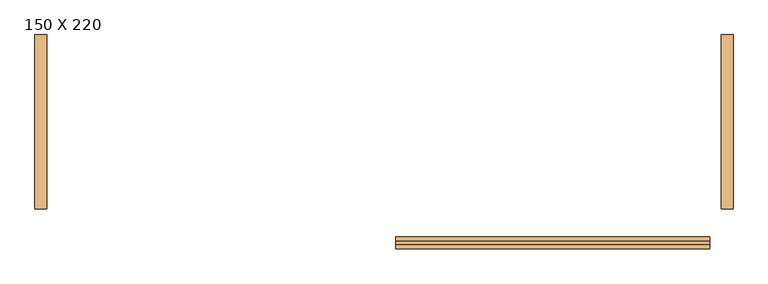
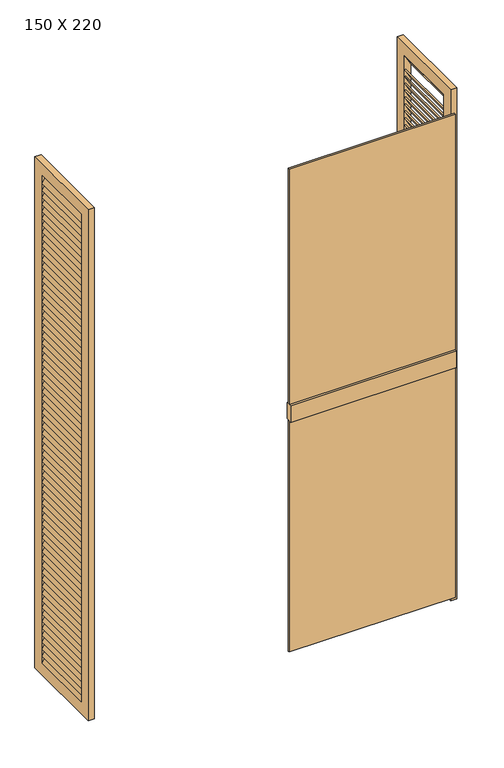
"""IFC4 building model written with IfcOpenShell, lengths in millimetres: door geometry, PORTA DE VIDRO COM ESQUADRIA DE CORRER - 2 FOLHAS + VENEZIANA SANFONADA - 4 FOLHAS : 150 X 220."""

from ifc_helpers import new_model, si_unit, frame, origin, place, context, project, spatial, polyline, outline, extrude, source, transform, mapped, element, save


def door_150_x_220_6492d4d8(model_context):
    return source(origin(), model_context, "Body", "SweptSolid", [
        extrude(outline(polyline([(2055.1449275, 757.1837644), (2055.1449275, 762.1837644), (2090.1449275, 742.1837644), (2090.1449275, 737.1837644), (2055.1449275, 757.1837644)])), frame((0.0, 60.1578647, 0.0), z_axis=(0.0, 1.0, 0.0), x_axis=(0.0, 0.0, 1.0)), (0.0, 0.0, 1.0), 275.0),
        extrude(outline(polyline([(2025.2173913, 757.1837644), (2025.2173913, 762.1837644), (2060.2173913, 742.1837644), (2060.2173913, 737.1837644), (2025.2173913, 757.1837644)])), frame((0.0, 60.1578647, 0.0), z_axis=(0.0, 1.0, 0.0), x_axis=(0.0, 0.0, 1.0)), (0.0, 0.0, 1.0), 275.0),
        extrude(outline(polyline([(1995.2898551, 757.1837644), (1995.2898551, 762.1837644), (2030.2898551, 742.1837644), (2030.2898551, 737.1837644), (1995.2898551, 757.1837644)])), frame((0.0, 60.1578647, 0.0), z_axis=(0.0, 1.0, 0.0), x_axis=(0.0, 0.0, 1.0)), (0.0, 0.0, 1.0), 275.0),
        extrude(outline(polyline([(1965.3623188, 757.1837644), (1965.3623188, 762.1837644), (2000.3623188, 742.1837644), (2000.3623188, 737.1837644), (1965.3623188, 757.1837644)])), frame((0.0, 60.1578647, 0.0), z_axis=(0.0, 1.0, 0.0), x_axis=(0.0, 0.0, 1.0)), (0.0, 0.0, 1.0), 275.0),
        extrude(outline(polyline([(1935.4347826, 757.1837644), (1935.4347826, 762.1837644), (1970.4347826, 742.1837644), (1970.4347826, 737.1837644), (1935.4347826, 757.1837644)])), frame((0.0, 60.1578647, 0.0), z_axis=(0.0, 1.0, 0.0), x_axis=(0.0, 0.0, 1.0)), (0.0, 0.0, 1.0), 275.0),
        extrude(outline(polyline([(1905.5072464, 757.1837644), (1905.5072464, 762.1837644), (1940.5072464, 742.1837644), (1940.5072464, 737.1837644), (1905.5072464, 757.1837644)])), frame((0.0, 60.1578647, 0.0), z_axis=(0.0, 1.0, 0.0), x_axis=(0.0, 0.0, 1.0)), (0.0, 0.0, 1.0), 275.0),
        extrude(outline(polyline([(1875.5797101, 757.1837644), (1875.5797101, 762.1837644), (1910.5797101, 742.1837644), (1910.5797101, 737.1837644), (1875.5797101, 757.1837644)])), frame((0.0, 60.1578647, 0.0), z_axis=(0.0, 1.0, 0.0), x_axis=(0.0, 0.0, 1.0)), (0.0, 0.0, 1.0), 275.0),
        extrude(outline(polyline([(1845.6521739, 757.1837644), (1845.6521739, 762.1837644), (1880.6521739, 742.1837644), (1880.6521739, 737.1837644), (1845.6521739, 757.1837644)])), frame((0.0, 60.1578647, 0.0), z_axis=(0.0, 1.0, 0.0), x_axis=(0.0, 0.0, 1.0)), (0.0, 0.0, 1.0), 275.0),
        extrude(outline(polyline([(1815.7246377, 757.1837644), (1815.7246377, 762.1837644), (1850.7246377, 742.1837644), (1850.7246377, 737.1837644), (1815.7246377, 757.1837644)])), frame((0.0, 60.1578647, 0.0), z_axis=(0.0, 1.0, 0.0), x_axis=(0.0, 0.0, 1.0)), (0.0, 0.0, 1.0), 275.0),
        extrude(outline(polyline([(1785.7971014, 757.1837644), (1785.7971014, 762.1837644), (1820.7971014, 742.1837644), (1820.7971014, 737.1837644), (1785.7971014, 757.1837644)])), frame((0.0, 60.1578647, 0.0), z_axis=(0.0, 1.0, 0.0), x_axis=(0.0, 0.0, 1.0)), (0.0, 0.0, 1.0), 275.0),
        extrude(outline(polyline([(1755.8695652, 757.1837644), (1755.8695652, 762.1837644), (1790.8695652, 742.1837644), (1790.8695652, 737.1837644), (1755.8695652, 757.1837644)])), frame((0.0, 60.1578647, 0.0), z_axis=(0.0, 1.0, 0.0), x_axis=(0.0, 0.0, 1.0)), (0.0, 0.0, 1.0), 275.0),
        extrude(outline(polyline([(1725.942029, 757.1837644), (1725.942029, 762.1837644), (1760.942029, 742.1837644), (1760.942029, 737.1837644), (1725.942029, 757.1837644)])), frame((0.0, 60.1578647, 0.0), z_axis=(0.0, 1.0, 0.0), x_axis=(0.0, 0.0, 1.0)), (0.0, 0.0, 1.0), 275.0),
        extrude(outline(polyline([(1696.0144928, 757.1837644), (1696.0144928, 762.1837644), (1731.0144928, 742.1837644), (1731.0144928, 737.1837644), (1696.0144928, 757.1837644)])), frame((0.0, 60.1578647, 0.0), z_axis=(0.0, 1.0, 0.0), x_axis=(0.0, 0.0, 1.0)), (0.0, 0.0, 1.0), 275.0),
        extrude(outline(polyline([(1666.0869565, 757.1837644), (1666.0869565, 762.1837644), (1701.0869565, 742.1837644), (1701.0869565, 737.1837644), (1666.0869565, 757.1837644)])), frame((0.0, 60.1578647, 0.0), z_axis=(0.0, 1.0, 0.0), x_axis=(0.0, 0.0, 1.0)), (0.0, 0.0, 1.0), 275.0),
        extrude(outline(polyline([(1636.1594203, 757.1837644), (1636.1594203, 762.1837644), (1671.1594203, 742.1837644), (1671.1594203, 737.1837644), (1636.1594203, 757.1837644)])), frame((0.0, 60.1578647, 0.0), z_axis=(0.0, 1.0, 0.0), x_axis=(0.0, 0.0, 1.0)), (0.0, 0.0, 1.0), 275.0),
        extrude(outline(polyline([(1606.2318841, 757.1837644), (1606.2318841, 762.1837644), (1641.2318841, 742.1837644), (1641.2318841, 737.1837644), (1606.2318841, 757.1837644)])), frame((0.0, 60.1578647, 0.0), z_axis=(0.0, 1.0, 0.0), x_axis=(0.0, 0.0, 1.0)), (0.0, 0.0, 1.0), 275.0),
        extrude(outline(polyline([(1576.3043478, 757.1837644), (1576.3043478, 762.1837644), (1611.3043478, 742.1837644), (1611.3043478, 737.1837644), (1576.3043478, 757.1837644)])), frame((0.0, 60.1578647, 0.0), z_axis=(0.0, 1.0, 0.0), x_axis=(0.0, 0.0, 1.0)), (0.0, 0.0, 1.0), 275.0),
        extrude(outline(polyline([(1546.3768116, 757.1837644), (1546.3768116, 762.1837644), (1581.3768116, 742.1837644), (1581.3768116, 737.1837644), (1546.3768116, 757.1837644)])), frame((0.0, 60.1578647, 0.0), z_axis=(0.0, 1.0, 0.0), x_axis=(0.0, 0.0, 1.0)), (0.0, 0.0, 1.0), 275.0),
        extrude(outline(polyline([(1516.4492754, 757.1837644), (1516.4492754, 762.1837644), (1551.4492754, 742.1837644), (1551.4492754, 737.1837644), (1516.4492754, 757.1837644)])), frame((0.0, 60.1578647, 0.0), z_axis=(0.0, 1.0, 0.0), x_axis=(0.0, 0.0, 1.0)), (0.0, 0.0, 1.0), 275.0),
        extrude(outline(polyline([(1486.5217391, 757.1837644), (1486.5217391, 762.1837644), (1521.5217391, 742.1837644), (1521.5217391, 737.1837644), (1486.5217391, 757.1837644)])), frame((0.0, 60.1578647, 0.0), z_axis=(0.0, 1.0, 0.0), x_axis=(0.0, 0.0, 1.0)), (0.0, 0.0, 1.0), 275.0),
        extrude(outline(polyline([(1456.5942029, 757.1837644), (1456.5942029, 762.1837644), (1491.5942029, 742.1837644), (1491.5942029, 737.1837644), (1456.5942029, 757.1837644)])), frame((0.0, 60.1578647, 0.0), z_axis=(0.0, 1.0, 0.0), x_axis=(0.0, 0.0, 1.0)), (0.0, 0.0, 1.0), 275.0),
        extrude(outline(polyline([(1426.6666667, 757.1837644), (1426.6666667, 762.1837644), (1461.6666667, 742.1837644), (1461.6666667, 737.1837644), (1426.6666667, 757.1837644)])), frame((0.0, 60.1578647, 0.0), z_axis=(0.0, 1.0, 0.0), x_axis=(0.0, 0.0, 1.0)), (0.0, 0.0, 1.0), 275.0),
        extrude(outline(polyline([(1396.7391304, 757.1837644), (1396.7391304, 762.1837644), (1431.7391304, 742.1837644), (1431.7391304, 737.1837644), (1396.7391304, 757.1837644)])), frame((0.0, 60.1578647, 0.0), z_axis=(0.0, 1.0, 0.0), x_axis=(0.0, 0.0, 1.0)), (0.0, 0.0, 1.0), 275.0),
        extrude(outline(polyline([(1366.8115942, 757.1837644), (1366.8115942, 762.1837644), (1401.8115942, 742.1837644), (1401.8115942, 737.1837644), (1366.8115942, 757.1837644)])), frame((0.0, 60.1578647, 0.0), z_axis=(0.0, 1.0, 0.0), x_axis=(0.0, 0.0, 1.0)), (0.0, 0.0, 1.0), 275.0),
        extrude(outline(polyline([(1336.884058, 757.1837644), (1336.884058, 762.1837644), (1371.884058, 742.1837644), (1371.884058, 737.1837644), (1336.884058, 757.1837644)])), frame((0.0, 60.1578647, 0.0), z_axis=(0.0, 1.0, 0.0), x_axis=(0.0, 0.0, 1.0)), (0.0, 0.0, 1.0), 275.0),
        extrude(outline(polyline([(1306.9565217, 757.1837644), (1306.9565217, 762.1837644), (1341.9565217, 742.1837644), (1341.9565217, 737.1837644), (1306.9565217, 757.1837644)])), frame((0.0, 60.1578647, 0.0), z_axis=(0.0, 1.0, 0.0), x_axis=(0.0, 0.0, 1.0)), (0.0, 0.0, 1.0), 275.0),
        extrude(outline(polyline([(1277.0289855, 757.1837644), (1277.0289855, 762.1837644), (1312.0289855, 742.1837644), (1312.0289855, 737.1837644), (1277.0289855, 757.1837644)])), frame((0.0, 60.1578647, 0.0), z_axis=(0.0, 1.0, 0.0), x_axis=(0.0, 0.0, 1.0)), (0.0, 0.0, 1.0), 275.0),
        extrude(outline(polyline([(1247.1014493, 757.1837644), (1247.1014493, 762.1837644), (1282.1014493, 742.1837644), (1282.1014493, 737.1837644), (1247.1014493, 757.1837644)])), frame((0.0, 60.1578647, 0.0), z_axis=(0.0, 1.0, 0.0), x_axis=(0.0, 0.0, 1.0)), (0.0, 0.0, 1.0), 275.0),
        extrude(outline(polyline([(1217.173913, 757.1837644), (1217.173913, 762.1837644), (1252.173913, 742.1837644), (1252.173913, 737.1837644), (1217.173913, 757.1837644)])), frame((0.0, 60.1578647, 0.0), z_axis=(0.0, 1.0, 0.0), x_axis=(0.0, 0.0, 1.0)), (0.0, 0.0, 1.0), 275.0),
        extrude(outline(polyline([(1187.2463768, 757.1837644), (1187.2463768, 762.1837644), (1222.2463768, 742.1837644), (1222.2463768, 737.1837644), (1187.2463768, 757.1837644)])), frame((0.0, 60.1578647, 0.0), z_axis=(0.0, 1.0, 0.0), x_axis=(0.0, 0.0, 1.0)), (0.0, 0.0, 1.0), 275.0),
        extrude(outline(polyline([(1157.3188406, 757.1837644), (1157.3188406, 762.1837644), (1192.3188406, 742.1837644), (1192.3188406, 737.1837644), (1157.3188406, 757.1837644)])), frame((0.0, 60.1578647, 0.0), z_axis=(0.0, 1.0, 0.0), x_axis=(0.0, 0.0, 1.0)), (0.0, 0.0, 1.0), 275.0),
        extrude(outline(polyline([(1127.3913043, 757.1837644), (1127.3913043, 762.1837644), (1162.3913043, 742.1837644), (1162.3913043, 737.1837644), (1127.3913043, 757.1837644)])), frame((0.0, 60.1578647, 0.0), z_axis=(0.0, 1.0, 0.0), x_axis=(0.0, 0.0, 1.0)), (0.0, 0.0, 1.0), 275.0),
        extrude(outline(polyline([(1097.4637681, 757.1837644), (1097.4637681, 762.1837644), (1132.4637681, 742.1837644), (1132.4637681, 737.1837644), (1097.4637681, 757.1837644)])), frame((0.0, 60.1578647, 0.0), z_axis=(0.0, 1.0, 0.0), x_axis=(0.0, 0.0, 1.0)), (0.0, 0.0, 1.0), 275.0),
        extrude(outline(polyline([(1067.5362319, 757.1837644), (1067.5362319, 762.1837644), (1102.5362319, 742.1837644), (1102.5362319, 737.1837644), (1067.5362319, 757.1837644)])), frame((0.0, 60.1578647, 0.0), z_axis=(0.0, 1.0, 0.0), x_axis=(0.0, 0.0, 1.0)), (0.0, 0.0, 1.0), 275.0),
        extrude(outline(polyline([(1037.6086957, 757.1837644), (1037.6086957, 762.1837644), (1072.6086957, 742.1837644), (1072.6086957, 737.1837644), (1037.6086957, 757.1837644)])), frame((0.0, 60.1578647, 0.0), z_axis=(0.0, 1.0, 0.0), x_axis=(0.0, 0.0, 1.0)), (0.0, 0.0, 1.0), 275.0),
        extrude(outline(polyline([(1007.6811594, 757.1837644), (1007.6811594, 762.1837644), (1042.6811594, 742.1837644), (1042.6811594, 737.1837644), (1007.6811594, 757.1837644)])), frame((0.0, 60.1578647, 0.0), z_axis=(0.0, 1.0, 0.0), x_axis=(0.0, 0.0, 1.0)), (0.0, 0.0, 1.0), 275.0),
        extrude(outline(polyline([(977.7536232, 757.1837644), (977.7536232, 762.1837644), (1012.7536232, 742.1837644), (1012.7536232, 737.1837644), (977.7536232, 757.1837644)])), frame((0.0, 60.1578647, 0.0), z_axis=(0.0, 1.0, 0.0), x_axis=(0.0, 0.0, 1.0)), (0.0, 0.0, 1.0), 275.0),
        extrude(outline(polyline([(947.826087, 757.1837644), (947.826087, 762.1837644), (982.826087, 742.1837644), (982.826087, 737.1837644), (947.826087, 757.1837644)])), frame((0.0, 60.1578647, 0.0), z_axis=(0.0, 1.0, 0.0), x_axis=(0.0, 0.0, 1.0)), (0.0, 0.0, 1.0), 275.0),
        extrude(outline(polyline([(917.8985507, 757.1837644), (917.8985507, 762.1837644), (952.8985507, 742.1837644), (952.8985507, 737.1837644), (917.8985507, 757.1837644)])), frame((0.0, 60.1578647, 0.0), z_axis=(0.0, 1.0, 0.0), x_axis=(0.0, 0.0, 1.0)), (0.0, 0.0, 1.0), 275.0),
        extrude(outline(polyline([(887.9710145, 757.1837644), (887.9710145, 762.1837644), (922.9710145, 742.1837644), (922.9710145, 737.1837644), (887.9710145, 757.1837644)])), frame((0.0, 60.1578647, 0.0), z_axis=(0.0, 1.0, 0.0), x_axis=(0.0, 0.0, 1.0)), (0.0, 0.0, 1.0), 275.0),
        extrude(outline(polyline([(858.0434783, 757.1837644), (858.0434783, 762.1837644), (893.0434783, 742.1837644), (893.0434783, 737.1837644), (858.0434783, 757.1837644)])), frame((0.0, 60.1578647, 0.0), z_axis=(0.0, 1.0, 0.0), x_axis=(0.0, 0.0, 1.0)), (0.0, 0.0, 1.0), 275.0),
        extrude(outline(polyline([(828.115942, 757.1837644), (828.115942, 762.1837644), (863.115942, 742.1837644), (863.115942, 737.1837644), (828.115942, 757.1837644)])), frame((0.0, 60.1578647, 0.0), z_axis=(0.0, 1.0, 0.0), x_axis=(0.0, 0.0, 1.0)), (0.0, 0.0, 1.0), 275.0),
        extrude(outline(polyline([(798.1884058, 757.1837644), (798.1884058, 762.1837644), (833.1884058, 742.1837644), (833.1884058, 737.1837644), (798.1884058, 757.1837644)])), frame((0.0, 60.1578647, 0.0), z_axis=(0.0, 1.0, 0.0), x_axis=(0.0, 0.0, 1.0)), (0.0, 0.0, 1.0), 275.0),
        extrude(outline(polyline([(768.2608696, 757.1837644), (768.2608696, 762.1837644), (803.2608696, 742.1837644), (803.2608696, 737.1837644), (768.2608696, 757.1837644)])), frame((0.0, 60.1578647, 0.0), z_axis=(0.0, 1.0, 0.0), x_axis=(0.0, 0.0, 1.0)), (0.0, 0.0, 1.0), 275.0),
        extrude(outline(polyline([(738.3333333, 757.1837644), (738.3333333, 762.1837644), (773.3333333, 742.1837644), (773.3333333, 737.1837644), (738.3333333, 757.1837644)])), frame((0.0, 60.1578647, 0.0), z_axis=(0.0, 1.0, 0.0), x_axis=(0.0, 0.0, 1.0)), (0.0, 0.0, 1.0), 275.0),
        extrude(outline(polyline([(708.4057971, 757.1837644), (708.4057971, 762.1837644), (743.4057971, 742.1837644), (743.4057971, 737.1837644), (708.4057971, 757.1837644)])), frame((0.0, 60.1578647, 0.0), z_axis=(0.0, 1.0, 0.0), x_axis=(0.0, 0.0, 1.0)), (0.0, 0.0, 1.0), 275.0),
        extrude(outline(polyline([(678.4782609, 757.1837644), (678.4782609, 762.1837644), (713.4782609, 742.1837644), (713.4782609, 737.1837644), (678.4782609, 757.1837644)])), frame((0.0, 60.1578647, 0.0), z_axis=(0.0, 1.0, 0.0), x_axis=(0.0, 0.0, 1.0)), (0.0, 0.0, 1.0), 275.0),
        extrude(outline(polyline([(648.5507246, 757.1837644), (648.5507246, 762.1837644), (683.5507246, 742.1837644), (683.5507246, 737.1837644), (648.5507246, 757.1837644)])), frame((0.0, 60.1578647, 0.0), z_axis=(0.0, 1.0, 0.0), x_axis=(0.0, 0.0, 1.0)), (0.0, 0.0, 1.0), 275.0),
        extrude(outline(polyline([(618.6231884, 757.1837644), (618.6231884, 762.1837644), (653.6231884, 742.1837644), (653.6231884, 737.1837644), (618.6231884, 757.1837644)])), frame((0.0, 60.1578647, 0.0), z_axis=(0.0, 1.0, 0.0), x_axis=(0.0, 0.0, 1.0)), (0.0, 0.0, 1.0), 275.0),
        extrude(outline(polyline([(588.6956522, 757.1837644), (588.6956522, 762.1837644), (623.6956522, 742.1837644), (623.6956522, 737.1837644), (588.6956522, 757.1837644)])), frame((0.0, 60.1578647, 0.0), z_axis=(0.0, 1.0, 0.0), x_axis=(0.0, 0.0, 1.0)), (0.0, 0.0, 1.0), 275.0),
        extrude(outline(polyline([(558.7681159, 757.1837644), (558.7681159, 762.1837644), (593.7681159, 742.1837644), (593.7681159, 737.1837644), (558.7681159, 757.1837644)])), frame((0.0, 60.1578647, 0.0), z_axis=(0.0, 1.0, 0.0), x_axis=(0.0, 0.0, 1.0)), (0.0, 0.0, 1.0), 275.0),
        extrude(outline(polyline([(528.8405797, 757.1837644), (528.8405797, 762.1837644), (563.8405797, 742.1837644), (563.8405797, 737.1837644), (528.8405797, 757.1837644)])), frame((0.0, 60.1578647, 0.0), z_axis=(0.0, 1.0, 0.0), x_axis=(0.0, 0.0, 1.0)), (0.0, 0.0, 1.0), 275.0),
        extrude(outline(polyline([(498.9130435, 757.1837644), (498.9130435, 762.1837644), (533.9130435, 742.1837644), (533.9130435, 737.1837644), (498.9130435, 757.1837644)])), frame((0.0, 60.1578647, 0.0), z_axis=(0.0, 1.0, 0.0), x_axis=(0.0, 0.0, 1.0)), (0.0, 0.0, 1.0), 275.0),
        extrude(outline(polyline([(468.9855072, 757.1837644), (468.9855072, 762.1837644), (503.9855072, 742.1837644), (503.9855072, 737.1837644), (468.9855072, 757.1837644)])), frame((0.0, 60.1578647, 0.0), z_axis=(0.0, 1.0, 0.0), x_axis=(0.0, 0.0, 1.0)), (0.0, 0.0, 1.0), 275.0),
        extrude(outline(polyline([(439.057971, 757.1837644), (439.057971, 762.1837644), (474.057971, 742.1837644), (474.057971, 737.1837644), (439.057971, 757.1837644)])), frame((0.0, 60.1578647, 0.0), z_axis=(0.0, 1.0, 0.0), x_axis=(0.0, 0.0, 1.0)), (0.0, 0.0, 1.0), 275.0),
        extrude(outline(polyline([(409.1304348, 757.1837644), (409.1304348, 762.1837644), (444.1304348, 742.1837644), (444.1304348, 737.1837644), (409.1304348, 757.1837644)])), frame((0.0, 60.1578647, 0.0), z_axis=(0.0, 1.0, 0.0), x_axis=(0.0, 0.0, 1.0)), (0.0, 0.0, 1.0), 275.0),
        extrude(outline(polyline([(379.2028986, 757.1837644), (379.2028986, 762.1837644), (414.2028986, 742.1837644), (414.2028986, 737.1837644), (379.2028986, 757.1837644)])), frame((0.0, 60.1578647, 0.0), z_axis=(0.0, 1.0, 0.0), x_axis=(0.0, 0.0, 1.0)), (0.0, 0.0, 1.0), 275.0),
        extrude(outline(polyline([(349.2753623, 757.1837644), (349.2753623, 762.1837644), (384.2753623, 742.1837644), (384.2753623, 737.1837644), (349.2753623, 757.1837644)])), frame((0.0, 60.1578647, 0.0), z_axis=(0.0, 1.0, 0.0), x_axis=(0.0, 0.0, 1.0)), (0.0, 0.0, 1.0), 275.0),
        extrude(outline(polyline([(319.3478261, 757.1837644), (319.3478261, 762.1837644), (354.3478261, 742.1837644), (354.3478261, 737.1837644), (319.3478261, 757.1837644)])), frame((0.0, 60.1578647, 0.0), z_axis=(0.0, 1.0, 0.0), x_axis=(0.0, 0.0, 1.0)), (0.0, 0.0, 1.0), 275.0),
        extrude(outline(polyline([(289.4202899, 757.1837644), (289.4202899, 762.1837644), (324.4202899, 742.1837644), (324.4202899, 737.1837644), (289.4202899, 757.1837644)])), frame((0.0, 60.1578647, 0.0), z_axis=(0.0, 1.0, 0.0), x_axis=(0.0, 0.0, 1.0)), (0.0, 0.0, 1.0), 275.0),
        extrude(outline(polyline([(259.4927536, 757.1837644), (259.4927536, 762.1837644), (294.4927536, 742.1837644), (294.4927536, 737.1837644), (259.4927536, 757.1837644)])), frame((0.0, 60.1578647, 0.0), z_axis=(0.0, 1.0, 0.0), x_axis=(0.0, 0.0, 1.0)), (0.0, 0.0, 1.0), 275.0),
        extrude(outline(polyline([(229.5652174, 757.1837644), (229.5652174, 762.1837644), (264.5652174, 742.1837644), (264.5652174, 737.1837644), (229.5652174, 757.1837644)])), frame((0.0, 60.1578647, 0.0), z_axis=(0.0, 1.0, 0.0), x_axis=(0.0, 0.0, 1.0)), (0.0, 0.0, 1.0), 275.0),
        extrude(outline(polyline([(199.6376812, 757.1837644), (199.6376812, 762.1837644), (234.6376812, 742.1837644), (234.6376812, 737.1837644), (199.6376812, 757.1837644)])), frame((0.0, 60.1578647, 0.0), z_axis=(0.0, 1.0, 0.0), x_axis=(0.0, 0.0, 1.0)), (0.0, 0.0, 1.0), 275.0),
        extrude(outline(polyline([(169.7101449, 757.1837644), (169.7101449, 762.1837644), (204.7101449, 742.1837644), (204.7101449, 737.1837644), (169.7101449, 757.1837644)])), frame((0.0, 60.1578647, 0.0), z_axis=(0.0, 1.0, 0.0), x_axis=(0.0, 0.0, 1.0)), (0.0, 0.0, 1.0), 275.0),
        extrude(outline(polyline([(139.7826087, 757.1837644), (139.7826087, 762.1837644), (174.7826087, 742.1837644), (174.7826087, 737.1837644), (139.7826087, 757.1837644)])), frame((0.0, 60.1578647, 0.0), z_axis=(0.0, 1.0, 0.0), x_axis=(0.0, 0.0, 1.0)), (0.0, 0.0, 1.0), 275.0),
        extrude(outline(polyline([(109.8550725, 757.1837644), (109.8550725, 762.1837644), (144.8550725, 742.1837644), (144.8550725, 737.1837644), (109.8550725, 757.1837644)])), frame((0.0, 60.1578647, 0.0), z_axis=(0.0, 1.0, 0.0), x_axis=(0.0, 0.0, 1.0)), (0.0, 0.0, 1.0), 275.0),
        extrude(outline(polyline([(79.9275362, 757.1837644), (79.9275362, 762.1837644), (114.9275362, 742.1837644), (114.9275362, 737.1837644), (79.9275362, 757.1837644)])), frame((0.0, 60.1578647, 0.0), z_axis=(0.0, 1.0, 0.0), x_axis=(0.0, 0.0, 1.0)), (0.0, 0.0, 1.0), 275.0),
        extrude(outline(polyline([(2115.0, 757.1837644), (2115.0, 762.1837644), (2150.0, 742.1837644), (2150.0, 737.1837644), (2115.0, 757.1837644)])), frame((0.0, 60.1578647, 0.0), z_axis=(0.0, 1.0, 0.0), x_axis=(0.0, 0.0, 1.0)), (0.0, 0.0, 1.0), 275.0),
        extrude(outline(polyline([(50.0, 757.1837644), (50.0, 762.1837644), (85.0, 742.1837644), (85.0, 737.1837644), (50.0, 757.1837644)])), frame((0.0, 60.1578647, 0.0), z_axis=(0.0, 1.0, 0.0), x_axis=(0.0, 0.0, 1.0)), (0.0, 0.0, 1.0), 275.0),
        extrude(outline(polyline([(385.1578647, 2200.0), (385.1578647, 0.0), (10.1578647, 0.0), (10.1578647, 2200.0), (385.1578647, 2200.0)]), holes=[polyline([(335.1578647, 2150.0), (60.1578647, 2150.0), (60.1578647, 50.0), (335.1578647, 50.0), (335.1578647, 2150.0)])]), frame((737.1837644, 0.0, 0.0), z_axis=(1.0, 0.0, 0.0), x_axis=(0.0, 1.0, 0.0)), (0.0, 0.0, 1.0), 25.0),
        extrude(outline(polyline([(2085.0724638, -732.8162356), (2120.0724638, -712.8162356), (2120.0724638, -717.8162356), (2085.0724638, -737.8162356), (2085.0724638, -732.8162356)])), frame((0.0, 60.1578647, 0.0), z_axis=(0.0, 1.0, 0.0), x_axis=(0.0, 0.0, 1.0)), (0.0, 0.0, 1.0), 275.0),
        extrude(outline(polyline([(2055.1449275, -732.8162356), (2090.1449275, -712.8162356), (2090.1449275, -717.8162356), (2055.1449275, -737.8162356), (2055.1449275, -732.8162356)])), frame((0.0, 60.1578647, 0.0), z_axis=(0.0, 1.0, 0.0), x_axis=(0.0, 0.0, 1.0)), (0.0, 0.0, 1.0), 275.0),
        extrude(outline(polyline([(2025.2173913, -732.8162356), (2060.2173913, -712.8162356), (2060.2173913, -717.8162356), (2025.2173913, -737.8162356), (2025.2173913, -732.8162356)])), frame((0.0, 60.1578647, 0.0), z_axis=(0.0, 1.0, 0.0), x_axis=(0.0, 0.0, 1.0)), (0.0, 0.0, 1.0), 275.0),
        extrude(outline(polyline([(1995.2898551, -732.8162356), (2030.2898551, -712.8162356), (2030.2898551, -717.8162356), (1995.2898551, -737.8162356), (1995.2898551, -732.8162356)])), frame((0.0, 60.1578647, 0.0), z_axis=(0.0, 1.0, 0.0), x_axis=(0.0, 0.0, 1.0)), (0.0, 0.0, 1.0), 275.0),
        extrude(outline(polyline([(1965.3623188, -732.8162356), (2000.3623188, -712.8162356), (2000.3623188, -717.8162356), (1965.3623188, -737.8162356), (1965.3623188, -732.8162356)])), frame((0.0, 60.1578647, 0.0), z_axis=(0.0, 1.0, 0.0), x_axis=(0.0, 0.0, 1.0)), (0.0, 0.0, 1.0), 275.0),
        extrude(outline(polyline([(1935.4347826, -732.8162356), (1970.4347826, -712.8162356), (1970.4347826, -717.8162356), (1935.4347826, -737.8162356), (1935.4347826, -732.8162356)])), frame((0.0, 60.1578647, 0.0), z_axis=(0.0, 1.0, 0.0), x_axis=(0.0, 0.0, 1.0)), (0.0, 0.0, 1.0), 275.0),
        extrude(outline(polyline([(1905.5072464, -732.8162356), (1940.5072464, -712.8162356), (1940.5072464, -717.8162356), (1905.5072464, -737.8162356), (1905.5072464, -732.8162356)])), frame((0.0, 60.1578647, 0.0), z_axis=(0.0, 1.0, 0.0), x_axis=(0.0, 0.0, 1.0)), (0.0, 0.0, 1.0), 275.0),
        extrude(outline(polyline([(1875.5797101, -732.8162356), (1910.5797101, -712.8162356), (1910.5797101, -717.8162356), (1875.5797101, -737.8162356), (1875.5797101, -732.8162356)])), frame((0.0, 60.1578647, 0.0), z_axis=(0.0, 1.0, 0.0), x_axis=(0.0, 0.0, 1.0)), (0.0, 0.0, 1.0), 275.0),
        extrude(outline(polyline([(1845.6521739, -732.8162356), (1880.6521739, -712.8162356), (1880.6521739, -717.8162356), (1845.6521739, -737.8162356), (1845.6521739, -732.8162356)])), frame((0.0, 60.1578647, 0.0), z_axis=(0.0, 1.0, 0.0), x_axis=(0.0, 0.0, 1.0)), (0.0, 0.0, 1.0), 275.0),
        extrude(outline(polyline([(1815.7246377, -732.8162356), (1850.7246377, -712.8162356), (1850.7246377, -717.8162356), (1815.7246377, -737.8162356), (1815.7246377, -732.8162356)])), frame((0.0, 60.1578647, 0.0), z_axis=(0.0, 1.0, 0.0), x_axis=(0.0, 0.0, 1.0)), (0.0, 0.0, 1.0), 275.0),
        extrude(outline(polyline([(1785.7971014, -732.8162356), (1820.7971014, -712.8162356), (1820.7971014, -717.8162356), (1785.7971014, -737.8162356), (1785.7971014, -732.8162356)])), frame((0.0, 60.1578647, 0.0), z_axis=(0.0, 1.0, 0.0), x_axis=(0.0, 0.0, 1.0)), (0.0, 0.0, 1.0), 275.0),
        extrude(outline(polyline([(1755.8695652, -732.8162356), (1790.8695652, -712.8162356), (1790.8695652, -717.8162356), (1755.8695652, -737.8162356), (1755.8695652, -732.8162356)])), frame((0.0, 60.1578647, 0.0), z_axis=(0.0, 1.0, 0.0), x_axis=(0.0, 0.0, 1.0)), (0.0, 0.0, 1.0), 275.0),
        extrude(outline(polyline([(1725.942029, -732.8162356), (1760.942029, -712.8162356), (1760.942029, -717.8162356), (1725.942029, -737.8162356), (1725.942029, -732.8162356)])), frame((0.0, 60.1578647, 0.0), z_axis=(0.0, 1.0, 0.0), x_axis=(0.0, 0.0, 1.0)), (0.0, 0.0, 1.0), 275.0),
        extrude(outline(polyline([(1696.0144928, -732.8162356), (1731.0144928, -712.8162356), (1731.0144928, -717.8162356), (1696.0144928, -737.8162356), (1696.0144928, -732.8162356)])), frame((0.0, 60.1578647, 0.0), z_axis=(0.0, 1.0, 0.0), x_axis=(0.0, 0.0, 1.0)), (0.0, 0.0, 1.0), 275.0),
        extrude(outline(polyline([(1666.0869565, -732.8162356), (1701.0869565, -712.8162356), (1701.0869565, -717.8162356), (1666.0869565, -737.8162356), (1666.0869565, -732.8162356)])), frame((0.0, 60.1578647, 0.0), z_axis=(0.0, 1.0, 0.0), x_axis=(0.0, 0.0, 1.0)), (0.0, 0.0, 1.0), 275.0),
        extrude(outline(polyline([(1636.1594203, -732.8162356), (1671.1594203, -712.8162356), (1671.1594203, -717.8162356), (1636.1594203, -737.8162356), (1636.1594203, -732.8162356)])), frame((0.0, 60.1578647, 0.0), z_axis=(0.0, 1.0, 0.0), x_axis=(0.0, 0.0, 1.0)), (0.0, 0.0, 1.0), 275.0),
        extrude(outline(polyline([(1606.2318841, -732.8162356), (1641.2318841, -712.8162356), (1641.2318841, -717.8162356), (1606.2318841, -737.8162356), (1606.2318841, -732.8162356)])), frame((0.0, 60.1578647, 0.0), z_axis=(0.0, 1.0, 0.0), x_axis=(0.0, 0.0, 1.0)), (0.0, 0.0, 1.0), 275.0),
        extrude(outline(polyline([(1576.3043478, -732.8162356), (1611.3043478, -712.8162356), (1611.3043478, -717.8162356), (1576.3043478, -737.8162356), (1576.3043478, -732.8162356)])), frame((0.0, 60.1578647, 0.0), z_axis=(0.0, 1.0, 0.0), x_axis=(0.0, 0.0, 1.0)), (0.0, 0.0, 1.0), 275.0),
        extrude(outline(polyline([(1546.3768116, -732.8162356), (1581.3768116, -712.8162356), (1581.3768116, -717.8162356), (1546.3768116, -737.8162356), (1546.3768116, -732.8162356)])), frame((0.0, 60.1578647, 0.0), z_axis=(0.0, 1.0, 0.0), x_axis=(0.0, 0.0, 1.0)), (0.0, 0.0, 1.0), 275.0),
        extrude(outline(polyline([(1516.4492754, -732.8162356), (1551.4492754, -712.8162356), (1551.4492754, -717.8162356), (1516.4492754, -737.8162356), (1516.4492754, -732.8162356)])), frame((0.0, 60.1578647, 0.0), z_axis=(0.0, 1.0, 0.0), x_axis=(0.0, 0.0, 1.0)), (0.0, 0.0, 1.0), 275.0),
        extrude(outline(polyline([(1486.5217391, -732.8162356), (1521.5217391, -712.8162356), (1521.5217391, -717.8162356), (1486.5217391, -737.8162356), (1486.5217391, -732.8162356)])), frame((0.0, 60.1578647, 0.0), z_axis=(0.0, 1.0, 0.0), x_axis=(0.0, 0.0, 1.0)), (0.0, 0.0, 1.0), 275.0),
        extrude(outline(polyline([(1456.5942029, -732.8162356), (1491.5942029, -712.8162356), (1491.5942029, -717.8162356), (1456.5942029, -737.8162356), (1456.5942029, -732.8162356)])), frame((0.0, 60.1578647, 0.0), z_axis=(0.0, 1.0, 0.0), x_axis=(0.0, 0.0, 1.0)), (0.0, 0.0, 1.0), 275.0),
        extrude(outline(polyline([(1426.6666667, -732.8162356), (1461.6666667, -712.8162356), (1461.6666667, -717.8162356), (1426.6666667, -737.8162356), (1426.6666667, -732.8162356)])), frame((0.0, 60.1578647, 0.0), z_axis=(0.0, 1.0, 0.0), x_axis=(0.0, 0.0, 1.0)), (0.0, 0.0, 1.0), 275.0),
        extrude(outline(polyline([(1396.7391304, -732.8162356), (1431.7391304, -712.8162356), (1431.7391304, -717.8162356), (1396.7391304, -737.8162356), (1396.7391304, -732.8162356)])), frame((0.0, 60.1578647, 0.0), z_axis=(0.0, 1.0, 0.0), x_axis=(0.0, 0.0, 1.0)), (0.0, 0.0, 1.0), 275.0),
        extrude(outline(polyline([(1366.8115942, -732.8162356), (1401.8115942, -712.8162356), (1401.8115942, -717.8162356), (1366.8115942, -737.8162356), (1366.8115942, -732.8162356)])), frame((0.0, 60.1578647, 0.0), z_axis=(0.0, 1.0, 0.0), x_axis=(0.0, 0.0, 1.0)), (0.0, 0.0, 1.0), 275.0),
        extrude(outline(polyline([(1336.884058, -732.8162356), (1371.884058, -712.8162356), (1371.884058, -717.8162356), (1336.884058, -737.8162356), (1336.884058, -732.8162356)])), frame((0.0, 60.1578647, 0.0), z_axis=(0.0, 1.0, 0.0), x_axis=(0.0, 0.0, 1.0)), (0.0, 0.0, 1.0), 275.0),
        extrude(outline(polyline([(1306.9565217, -732.8162356), (1341.9565217, -712.8162356), (1341.9565217, -717.8162356), (1306.9565217, -737.8162356), (1306.9565217, -732.8162356)])), frame((0.0, 60.1578647, 0.0), z_axis=(0.0, 1.0, 0.0), x_axis=(0.0, 0.0, 1.0)), (0.0, 0.0, 1.0), 275.0),
        extrude(outline(polyline([(1277.0289855, -732.8162356), (1312.0289855, -712.8162356), (1312.0289855, -717.8162356), (1277.0289855, -737.8162356), (1277.0289855, -732.8162356)])), frame((0.0, 60.1578647, 0.0), z_axis=(0.0, 1.0, 0.0), x_axis=(0.0, 0.0, 1.0)), (0.0, 0.0, 1.0), 275.0),
        extrude(outline(polyline([(1247.1014493, -732.8162356), (1282.1014493, -712.8162356), (1282.1014493, -717.8162356), (1247.1014493, -737.8162356), (1247.1014493, -732.8162356)])), frame((0.0, 60.1578647, 0.0), z_axis=(0.0, 1.0, 0.0), x_axis=(0.0, 0.0, 1.0)), (0.0, 0.0, 1.0), 275.0),
        extrude(outline(polyline([(1217.173913, -732.8162356), (1252.173913, -712.8162356), (1252.173913, -717.8162356), (1217.173913, -737.8162356), (1217.173913, -732.8162356)])), frame((0.0, 60.1578647, 0.0), z_axis=(0.0, 1.0, 0.0), x_axis=(0.0, 0.0, 1.0)), (0.0, 0.0, 1.0), 275.0),
        extrude(outline(polyline([(1187.2463768, -732.8162356), (1222.2463768, -712.8162356), (1222.2463768, -717.8162356), (1187.2463768, -737.8162356), (1187.2463768, -732.8162356)])), frame((0.0, 60.1578647, 0.0), z_axis=(0.0, 1.0, 0.0), x_axis=(0.0, 0.0, 1.0)), (0.0, 0.0, 1.0), 275.0),
        extrude(outline(polyline([(1157.3188406, -732.8162356), (1192.3188406, -712.8162356), (1192.3188406, -717.8162356), (1157.3188406, -737.8162356), (1157.3188406, -732.8162356)])), frame((0.0, 60.1578647, 0.0), z_axis=(0.0, 1.0, 0.0), x_axis=(0.0, 0.0, 1.0)), (0.0, 0.0, 1.0), 275.0),
        extrude(outline(polyline([(1127.3913043, -732.8162356), (1162.3913043, -712.8162356), (1162.3913043, -717.8162356), (1127.3913043, -737.8162356), (1127.3913043, -732.8162356)])), frame((0.0, 60.1578647, 0.0), z_axis=(0.0, 1.0, 0.0), x_axis=(0.0, 0.0, 1.0)), (0.0, 0.0, 1.0), 275.0),
        extrude(outline(polyline([(1097.4637681, -732.8162356), (1132.4637681, -712.8162356), (1132.4637681, -717.8162356), (1097.4637681, -737.8162356), (1097.4637681, -732.8162356)])), frame((0.0, 60.1578647, 0.0), z_axis=(0.0, 1.0, 0.0), x_axis=(0.0, 0.0, 1.0)), (0.0, 0.0, 1.0), 275.0),
        extrude(outline(polyline([(1067.5362319, -732.8162356), (1102.5362319, -712.8162356), (1102.5362319, -717.8162356), (1067.5362319, -737.8162356), (1067.5362319, -732.8162356)])), frame((0.0, 60.1578647, 0.0), z_axis=(0.0, 1.0, 0.0), x_axis=(0.0, 0.0, 1.0)), (0.0, 0.0, 1.0), 275.0),
        extrude(outline(polyline([(1037.6086957, -732.8162356), (1072.6086957, -712.8162356), (1072.6086957, -717.8162356), (1037.6086957, -737.8162356), (1037.6086957, -732.8162356)])), frame((0.0, 60.1578647, 0.0), z_axis=(0.0, 1.0, 0.0), x_axis=(0.0, 0.0, 1.0)), (0.0, 0.0, 1.0), 275.0),
        extrude(outline(polyline([(1007.6811594, -732.8162356), (1042.6811594, -712.8162356), (1042.6811594, -717.8162356), (1007.6811594, -737.8162356), (1007.6811594, -732.8162356)])), frame((0.0, 60.1578647, 0.0), z_axis=(0.0, 1.0, 0.0), x_axis=(0.0, 0.0, 1.0)), (0.0, 0.0, 1.0), 275.0),
        extrude(outline(polyline([(977.7536232, -732.8162356), (1012.7536232, -712.8162356), (1012.7536232, -717.8162356), (977.7536232, -737.8162356), (977.7536232, -732.8162356)])), frame((0.0, 60.1578647, 0.0), z_axis=(0.0, 1.0, 0.0), x_axis=(0.0, 0.0, 1.0)), (0.0, 0.0, 1.0), 275.0),
        extrude(outline(polyline([(947.826087, -732.8162356), (982.826087, -712.8162356), (982.826087, -717.8162356), (947.826087, -737.8162356), (947.826087, -732.8162356)])), frame((0.0, 60.1578647, 0.0), z_axis=(0.0, 1.0, 0.0), x_axis=(0.0, 0.0, 1.0)), (0.0, 0.0, 1.0), 275.0),
        extrude(outline(polyline([(917.8985507, -732.8162356), (952.8985507, -712.8162356), (952.8985507, -717.8162356), (917.8985507, -737.8162356), (917.8985507, -732.8162356)])), frame((0.0, 60.1578647, 0.0), z_axis=(0.0, 1.0, 0.0), x_axis=(0.0, 0.0, 1.0)), (0.0, 0.0, 1.0), 275.0),
        extrude(outline(polyline([(887.9710145, -732.8162356), (922.9710145, -712.8162356), (922.9710145, -717.8162356), (887.9710145, -737.8162356), (887.9710145, -732.8162356)])), frame((0.0, 60.1578647, 0.0), z_axis=(0.0, 1.0, 0.0), x_axis=(0.0, 0.0, 1.0)), (0.0, 0.0, 1.0), 275.0),
        extrude(outline(polyline([(858.0434783, -732.8162356), (893.0434783, -712.8162356), (893.0434783, -717.8162356), (858.0434783, -737.8162356), (858.0434783, -732.8162356)])), frame((0.0, 60.1578647, 0.0), z_axis=(0.0, 1.0, 0.0), x_axis=(0.0, 0.0, 1.0)), (0.0, 0.0, 1.0), 275.0),
        extrude(outline(polyline([(828.115942, -732.8162356), (863.115942, -712.8162356), (863.115942, -717.8162356), (828.115942, -737.8162356), (828.115942, -732.8162356)])), frame((0.0, 60.1578647, 0.0), z_axis=(0.0, 1.0, 0.0), x_axis=(0.0, 0.0, 1.0)), (0.0, 0.0, 1.0), 275.0),
        extrude(outline(polyline([(798.1884058, -732.8162356), (833.1884058, -712.8162356), (833.1884058, -717.8162356), (798.1884058, -737.8162356), (798.1884058, -732.8162356)])), frame((0.0, 60.1578647, 0.0), z_axis=(0.0, 1.0, 0.0), x_axis=(0.0, 0.0, 1.0)), (0.0, 0.0, 1.0), 275.0),
        extrude(outline(polyline([(768.2608696, -732.8162356), (803.2608696, -712.8162356), (803.2608696, -717.8162356), (768.2608696, -737.8162356), (768.2608696, -732.8162356)])), frame((0.0, 60.1578647, 0.0), z_axis=(0.0, 1.0, 0.0), x_axis=(0.0, 0.0, 1.0)), (0.0, 0.0, 1.0), 275.0),
        extrude(outline(polyline([(738.3333333, -732.8162356), (773.3333333, -712.8162356), (773.3333333, -717.8162356), (738.3333333, -737.8162356), (738.3333333, -732.8162356)])), frame((0.0, 60.1578647, 0.0), z_axis=(0.0, 1.0, 0.0), x_axis=(0.0, 0.0, 1.0)), (0.0, 0.0, 1.0), 275.0),
        extrude(outline(polyline([(708.4057971, -732.8162356), (743.4057971, -712.8162356), (743.4057971, -717.8162356), (708.4057971, -737.8162356), (708.4057971, -732.8162356)])), frame((0.0, 60.1578647, 0.0), z_axis=(0.0, 1.0, 0.0), x_axis=(0.0, 0.0, 1.0)), (0.0, 0.0, 1.0), 275.0),
        extrude(outline(polyline([(678.4782609, -732.8162356), (713.4782609, -712.8162356), (713.4782609, -717.8162356), (678.4782609, -737.8162356), (678.4782609, -732.8162356)])), frame((0.0, 60.1578647, 0.0), z_axis=(0.0, 1.0, 0.0), x_axis=(0.0, 0.0, 1.0)), (0.0, 0.0, 1.0), 275.0),
        extrude(outline(polyline([(648.5507246, -732.8162356), (683.5507246, -712.8162356), (683.5507246, -717.8162356), (648.5507246, -737.8162356), (648.5507246, -732.8162356)])), frame((0.0, 60.1578647, 0.0), z_axis=(0.0, 1.0, 0.0), x_axis=(0.0, 0.0, 1.0)), (0.0, 0.0, 1.0), 275.0),
        extrude(outline(polyline([(618.6231884, -732.8162356), (653.6231884, -712.8162356), (653.6231884, -717.8162356), (618.6231884, -737.8162356), (618.6231884, -732.8162356)])), frame((0.0, 60.1578647, 0.0), z_axis=(0.0, 1.0, 0.0), x_axis=(0.0, 0.0, 1.0)), (0.0, 0.0, 1.0), 275.0),
        extrude(outline(polyline([(588.6956522, -732.8162356), (623.6956522, -712.8162356), (623.6956522, -717.8162356), (588.6956522, -737.8162356), (588.6956522, -732.8162356)])), frame((0.0, 60.1578647, 0.0), z_axis=(0.0, 1.0, 0.0), x_axis=(0.0, 0.0, 1.0)), (0.0, 0.0, 1.0), 275.0),
        extrude(outline(polyline([(558.7681159, -732.8162356), (593.7681159, -712.8162356), (593.7681159, -717.8162356), (558.7681159, -737.8162356), (558.7681159, -732.8162356)])), frame((0.0, 60.1578647, 0.0), z_axis=(0.0, 1.0, 0.0), x_axis=(0.0, 0.0, 1.0)), (0.0, 0.0, 1.0), 275.0),
        extrude(outline(polyline([(528.8405797, -732.8162356), (563.8405797, -712.8162356), (563.8405797, -717.8162356), (528.8405797, -737.8162356), (528.8405797, -732.8162356)])), frame((0.0, 60.1578647, 0.0), z_axis=(0.0, 1.0, 0.0), x_axis=(0.0, 0.0, 1.0)), (0.0, 0.0, 1.0), 275.0),
        extrude(outline(polyline([(498.9130435, -732.8162356), (533.9130435, -712.8162356), (533.9130435, -717.8162356), (498.9130435, -737.8162356), (498.9130435, -732.8162356)])), frame((0.0, 60.1578647, 0.0), z_axis=(0.0, 1.0, 0.0), x_axis=(0.0, 0.0, 1.0)), (0.0, 0.0, 1.0), 275.0),
        extrude(outline(polyline([(468.9855072, -732.8162356), (503.9855072, -712.8162356), (503.9855072, -717.8162356), (468.9855072, -737.8162356), (468.9855072, -732.8162356)])), frame((0.0, 60.1578647, 0.0), z_axis=(0.0, 1.0, 0.0), x_axis=(0.0, 0.0, 1.0)), (0.0, 0.0, 1.0), 275.0),
        extrude(outline(polyline([(439.057971, -732.8162356), (474.057971, -712.8162356), (474.057971, -717.8162356), (439.057971, -737.8162356), (439.057971, -732.8162356)])), frame((0.0, 60.1578647, 0.0), z_axis=(0.0, 1.0, 0.0), x_axis=(0.0, 0.0, 1.0)), (0.0, 0.0, 1.0), 275.0),
        extrude(outline(polyline([(409.1304348, -732.8162356), (444.1304348, -712.8162356), (444.1304348, -717.8162356), (409.1304348, -737.8162356), (409.1304348, -732.8162356)])), frame((0.0, 60.1578647, 0.0), z_axis=(0.0, 1.0, 0.0), x_axis=(0.0, 0.0, 1.0)), (0.0, 0.0, 1.0), 275.0),
        extrude(outline(polyline([(379.2028986, -732.8162356), (414.2028986, -712.8162356), (414.2028986, -717.8162356), (379.2028986, -737.8162356), (379.2028986, -732.8162356)])), frame((0.0, 60.1578647, 0.0), z_axis=(0.0, 1.0, 0.0), x_axis=(0.0, 0.0, 1.0)), (0.0, 0.0, 1.0), 275.0),
        extrude(outline(polyline([(349.2753623, -732.8162356), (384.2753623, -712.8162356), (384.2753623, -717.8162356), (349.2753623, -737.8162356), (349.2753623, -732.8162356)])), frame((0.0, 60.1578647, 0.0), z_axis=(0.0, 1.0, 0.0), x_axis=(0.0, 0.0, 1.0)), (0.0, 0.0, 1.0), 275.0),
        extrude(outline(polyline([(319.3478261, -732.8162356), (354.3478261, -712.8162356), (354.3478261, -717.8162356), (319.3478261, -737.8162356), (319.3478261, -732.8162356)])), frame((0.0, 60.1578647, 0.0), z_axis=(0.0, 1.0, 0.0), x_axis=(0.0, 0.0, 1.0)), (0.0, 0.0, 1.0), 275.0),
        extrude(outline(polyline([(289.4202899, -732.8162356), (324.4202899, -712.8162356), (324.4202899, -717.8162356), (289.4202899, -737.8162356), (289.4202899, -732.8162356)])), frame((0.0, 60.1578647, 0.0), z_axis=(0.0, 1.0, 0.0), x_axis=(0.0, 0.0, 1.0)), (0.0, 0.0, 1.0), 275.0),
        extrude(outline(polyline([(259.4927536, -732.8162356), (294.4927536, -712.8162356), (294.4927536, -717.8162356), (259.4927536, -737.8162356), (259.4927536, -732.8162356)])), frame((0.0, 60.1578647, 0.0), z_axis=(0.0, 1.0, 0.0), x_axis=(0.0, 0.0, 1.0)), (0.0, 0.0, 1.0), 275.0),
        extrude(outline(polyline([(229.5652174, -732.8162356), (264.5652174, -712.8162356), (264.5652174, -717.8162356), (229.5652174, -737.8162356), (229.5652174, -732.8162356)])), frame((0.0, 60.1578647, 0.0), z_axis=(0.0, 1.0, 0.0), x_axis=(0.0, 0.0, 1.0)), (0.0, 0.0, 1.0), 275.0),
        extrude(outline(polyline([(199.6376812, -732.8162356), (234.6376812, -712.8162356), (234.6376812, -717.8162356), (199.6376812, -737.8162356), (199.6376812, -732.8162356)])), frame((0.0, 60.1578647, 0.0), z_axis=(0.0, 1.0, 0.0), x_axis=(0.0, 0.0, 1.0)), (0.0, 0.0, 1.0), 275.0),
        extrude(outline(polyline([(169.7101449, -732.8162356), (204.7101449, -712.8162356), (204.7101449, -717.8162356), (169.7101449, -737.8162356), (169.7101449, -732.8162356)])), frame((0.0, 60.1578647, 0.0), z_axis=(0.0, 1.0, 0.0), x_axis=(0.0, 0.0, 1.0)), (0.0, 0.0, 1.0), 275.0),
        extrude(outline(polyline([(139.7826087, -732.8162356), (174.7826087, -712.8162356), (174.7826087, -717.8162356), (139.7826087, -737.8162356), (139.7826087, -732.8162356)])), frame((0.0, 60.1578647, 0.0), z_axis=(0.0, 1.0, 0.0), x_axis=(0.0, 0.0, 1.0)), (0.0, 0.0, 1.0), 275.0),
        extrude(outline(polyline([(109.8550725, -732.8162356), (144.8550725, -712.8162356), (144.8550725, -717.8162356), (109.8550725, -737.8162356), (109.8550725, -732.8162356)])), frame((0.0, 60.1578647, 0.0), z_axis=(0.0, 1.0, 0.0), x_axis=(0.0, 0.0, 1.0)), (0.0, 0.0, 1.0), 275.0),
        extrude(outline(polyline([(79.9275362, -732.8162356), (114.9275362, -712.8162356), (114.9275362, -717.8162356), (79.9275362, -737.8162356), (79.9275362, -732.8162356)])), frame((0.0, 60.1578647, 0.0), z_axis=(0.0, 1.0, 0.0), x_axis=(0.0, 0.0, 1.0)), (0.0, 0.0, 1.0), 275.0),
        extrude(outline(polyline([(2115.0, -732.8162356), (2150.0, -712.8162356), (2150.0, -717.8162356), (2115.0, -737.8162356), (2115.0, -732.8162356)])), frame((0.0, 60.1578647, 0.0), z_axis=(0.0, 1.0, 0.0), x_axis=(0.0, 0.0, 1.0)), (0.0, 0.0, 1.0), 275.0),
        extrude(outline(polyline([(50.0, -732.8162356), (85.0, -712.8162356), (85.0, -717.8162356), (50.0, -737.8162356), (50.0, -732.8162356)])), frame((0.0, 60.1578647, 0.0), z_axis=(0.0, 1.0, 0.0), x_axis=(0.0, 0.0, 1.0)), (0.0, 0.0, 1.0), 275.0),
        extrude(outline(polyline([(385.1578647, 2200.0), (385.1578647, 0.0), (10.1578647, 0.0), (10.1578647, 2200.0), (385.1578647, 2200.0)]), holes=[polyline([(335.1578647, 2150.0), (60.1578647, 2150.0), (60.1578647, 50.0), (335.1578647, 50.0), (335.1578647, 2150.0)])]), frame((-737.8162356, 0.0, 0.0), z_axis=(1.0, 0.0, 0.0), x_axis=(0.0, 1.0, 0.0)), (0.0, 0.0, 1.0), 25.0),
        extrude(outline(polyline([(37.1837644, -49.8421353), (712.1837644, -49.8421353), (712.1837644, -74.8421353), (37.1837644, -74.8421353), (37.1837644, -49.8421353)])), frame((0.0, 0.0, 1065.0), z_axis=(0.0, 0.0, 1.0), x_axis=(1.0, 0.0, 0.0)), (0.0, 0.0, 1.0), 70.0),
        extrude(outline(polyline([(712.1837644, -59.3421353), (712.1837644, -65.3421353), (37.1837644, -65.3421353), (37.1837644, -59.3421353), (712.1837644, -59.3421353)])), frame((0.0, 0.0, 70.0), z_axis=(0.0, 0.0, 1.0), x_axis=(1.0, 0.0, 0.0)), (0.0, 0.0, 1.0), 2080.0),
    ])


if __name__ == "__main__":
    model = new_model("IFC4")
    model_context = context("Model", 3, world=origin())
    ifc_project = project(units=[si_unit("LENGTHUNIT", "METRE", prefix="MILLI")], contexts=[model_context])
    site = spatial("IfcSite", under=ifc_project)
    building = spatial("IfcBuilding", under=site)
    placement = place(None, origin())
    door_150_x_220_shape = door_150_x_220_6492d4d8(model_context)
    element("IfcDoor", 1, ObjectType="PORTA DE VIDRO COM ESQUADRIA DE CORRER - 2 FOLHAS + VENEZIANA SANFONADA - 4 FOLHAS : 150 X 220", at=placement, inside=building, context=model_context, shape_type="MappedRepresentation", body=[
        mapped(door_150_x_220_shape, transform((0.0, 0.0, 0.0), x_axis=(1.0, 0.0, 0.0), y_axis=(0.0, 1.0, 0.0), z_axis=(0.0, 0.0, 1.0))),
    ])
    save(model, "model.ifc")
